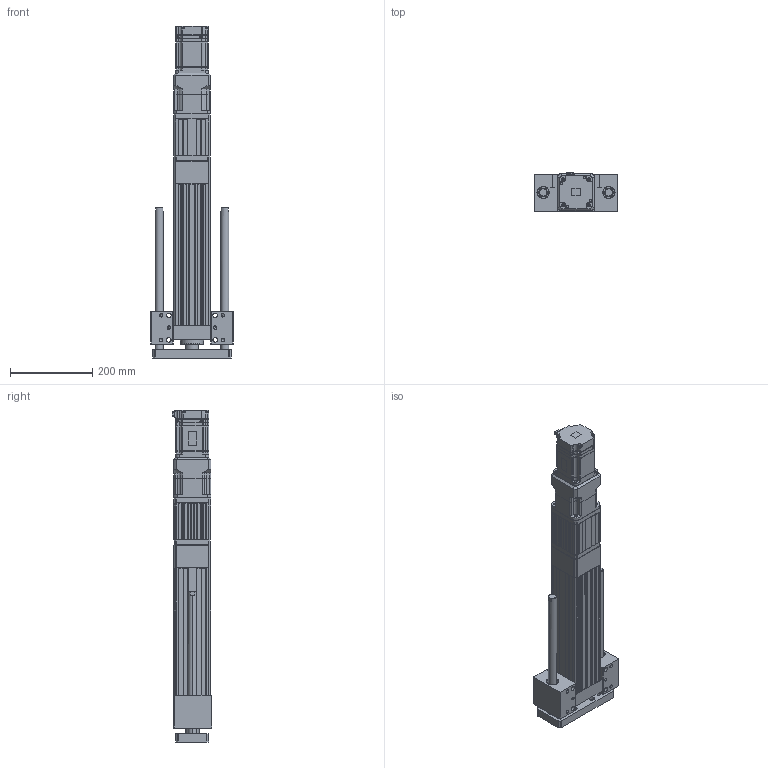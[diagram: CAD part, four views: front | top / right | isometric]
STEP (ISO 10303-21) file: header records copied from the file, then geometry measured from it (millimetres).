
FILE_DESCRIPTION (( 'STEP AP203' ), '1' );
FILE_NAME ('ANS090H-HS200-05(10)(25)-W75G05.STEP', '2019-03-18T03:21:51', ( 'user' ), ( '' ), 'SwSTEP 2.0', 'SolidWorks 2013', '' );
FILE_SCHEMA (( 'CONFIG_CONTROL_DESIGN' ));
Length unit declared in the file: millimetre
Products named in the file (5): ANS090H-HS200-05(10)(25)-W75G05; ANS090H HS200 VER2; ANS090 ROD ST200-H; SGMJV_08A_A21; AB090-005-S1-P2[YASKAWA SGMJV08A]
Assembly tree (4 placements, depth 2):
  ANS090H-HS200-05(10)(25)-W75G05
    ANS090H HS200 VER2
    ANS090 ROD ST200-H
    SGMJV_08A_A21
    AB090-005-S1-P2[YASKAWA SGMJV08A]
Bounding box: 200 x 95.8 x 808.1 mm (x, y, z)
Volume: 4318388.8 mm3; surface area: 746460.3 mm2
Topology: 3 solids, 10 shells, 1749 faces, 4692 edges, 3042 vertices
Faces by surface type: plane 1030, cylinder 559, cone 148, bspline 12
Entity records: 55250 total; most frequent: CARTESIAN_POINT 10492, ORIENTED_EDGE 9248, DIRECTION 9165, EDGE_CURVE 4668, VECTOR 3271, LINE 3271, VERTEX_POINT 3042, AXIS2_PLACEMENT_3D 2947
